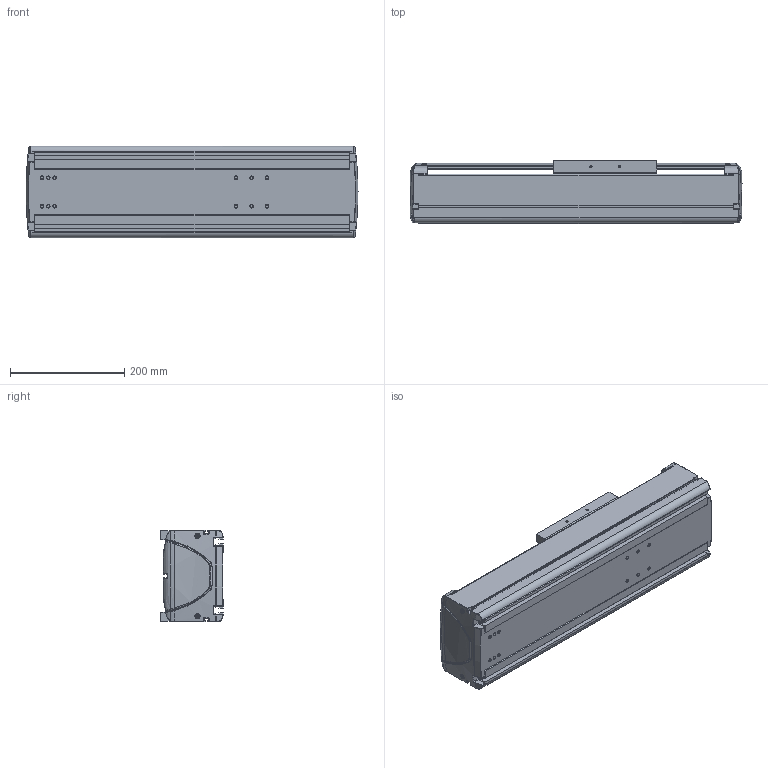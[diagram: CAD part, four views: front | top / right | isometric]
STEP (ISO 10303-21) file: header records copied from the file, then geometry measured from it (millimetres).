
FILE_DESCRIPTION((''),'2;1');
FILE_NAME('BE50G-ST-M_N-20_IGS_PRT','2017-06-18T',(' '),(''),'PRO/ENGINEER BY PARAMETRIC TECHNOLOGY CORPORATION, 2015030','PRO/ENGINEER BY PARAMETRIC TECHNOLOGY CORPORATION, 2015030','');
FILE_SCHEMA(('CONFIG_CONTROL_DESIGN'));
Length unit declared in the file: millimetre
Products named in the file (1): BE50G-ST-M_N-20_IGS_PRT
Bounding box: 579.98 x 110 x 160 mm (x, y, z)
Volume: 2964675.2 mm3; surface area: 964102.2 mm2
Topology: 2 solids, 61 shells, 1478 faces, 3820 edges, 2431 vertices
Faces by surface type: plane 599, cylinder 592, bspline 114, torus 87, cone 46, sphere 40
Entity records: 50547 total; most frequent: CARTESIAN_POINT 14770, DIRECTION 7370, ORIENTED_EDGE 7368, EDGE_CURVE 3802, AXIS2_PLACEMENT_3D 2718, VERTEX_POINT 2431, VECTOR 1934, LINE 1934
